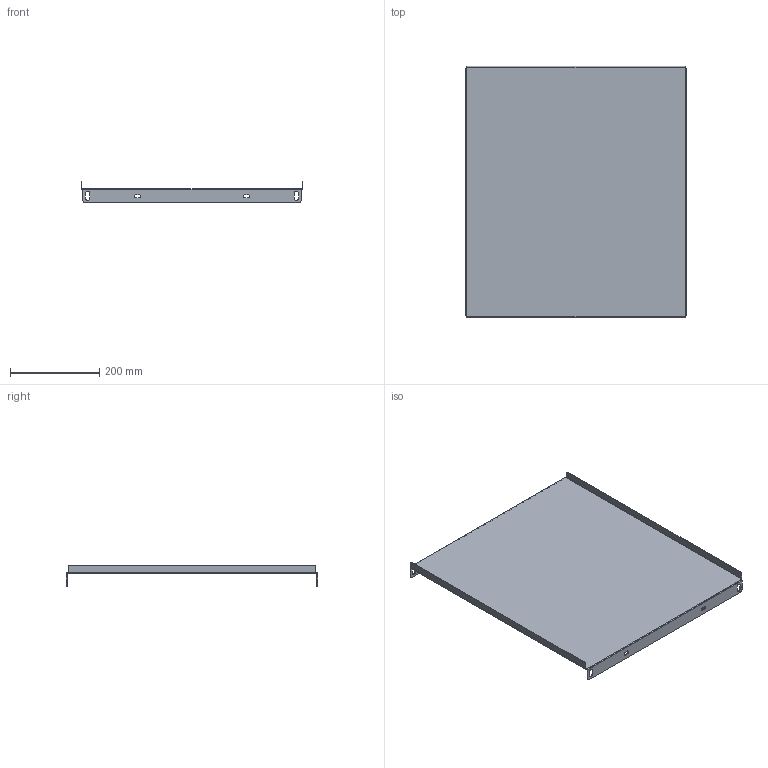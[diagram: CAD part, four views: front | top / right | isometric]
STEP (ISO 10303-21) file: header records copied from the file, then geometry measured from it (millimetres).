
FILE_DESCRIPTION (( 'STEP AP203' ), '1' );
FILE_NAME ('EUPU-060060.STEP', '2015-04-22T09:25:27', ( 'Admin' ), ( '' ), 'SwSTEP 2.0', 'SolidWorks 2014', '' );
FILE_SCHEMA (( 'CONFIG_CONTROL_DESIGN' ));
Length unit declared in the file: millimetre
Products named in the file (1): EUPU-060060
Bounding box: 498 x 565 x 47.5 mm (x, y, z)
Volume: 642580.6 mm3; surface area: 655932 mm2
Topology: 1 solids, 1 shells, 82 faces, 240 edges, 160 vertices
Faces by surface type: plane 46, cylinder 36
Entity records: 2845 total; most frequent: CARTESIAN_POINT 483, ORIENTED_EDGE 480, DIRECTION 478, EDGE_CURVE 240, LINE 168, VECTOR 168, VERTEX_POINT 160, AXIS2_PLACEMENT_3D 155
